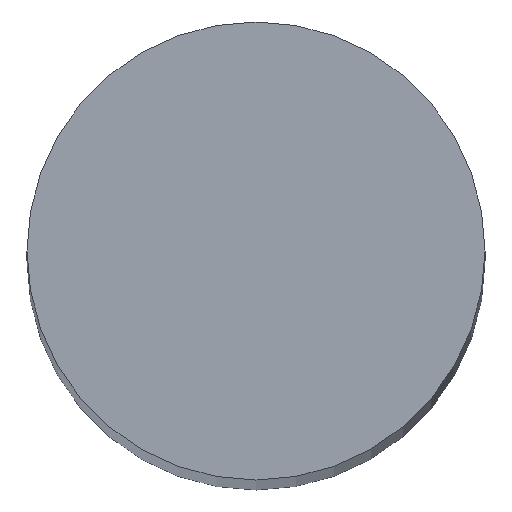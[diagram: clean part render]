
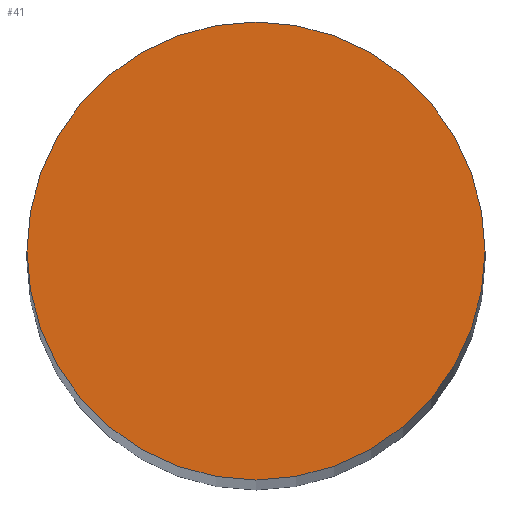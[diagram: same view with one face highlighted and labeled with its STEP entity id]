
A CAD part, top view. The second image highlights one B-rep face of the part: STEP entity #41.
In plain terms, the highlighted planar face has unit normal (0, 0, 1).
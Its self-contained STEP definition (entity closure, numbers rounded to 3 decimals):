
#16=PLANE('',#66);
#19=FACE_OUTER_BOUND('',#22,.T.);
#22=EDGE_LOOP('',(#37));
#25=CIRCLE('',#63,8.);
#27=VERTEX_POINT('',#82);
#29=EDGE_CURVE('',#27,#27,#25,.T.);
#37=ORIENTED_EDGE('',*,*,#29,.T.);
#41=ADVANCED_FACE('',(#19),#16,.T.);
#63=AXIS2_PLACEMENT_3D('',#83,#71,#72);
#66=AXIS2_PLACEMENT_3D('',#88,#78,#79);
#71=DIRECTION('center_axis',(0.,0.,1.));
#72=DIRECTION('ref_axis',(-1.,0.,0.));
#78=DIRECTION('center_axis',(0.,0.,1.));
#79=DIRECTION('ref_axis',(1.,0.,0.));
#82=CARTESIAN_POINT('',(8.,0.,200.));
#83=CARTESIAN_POINT('Origin',(0.,0.,200.));
#88=CARTESIAN_POINT('Origin',(0.,0.,
200.));
